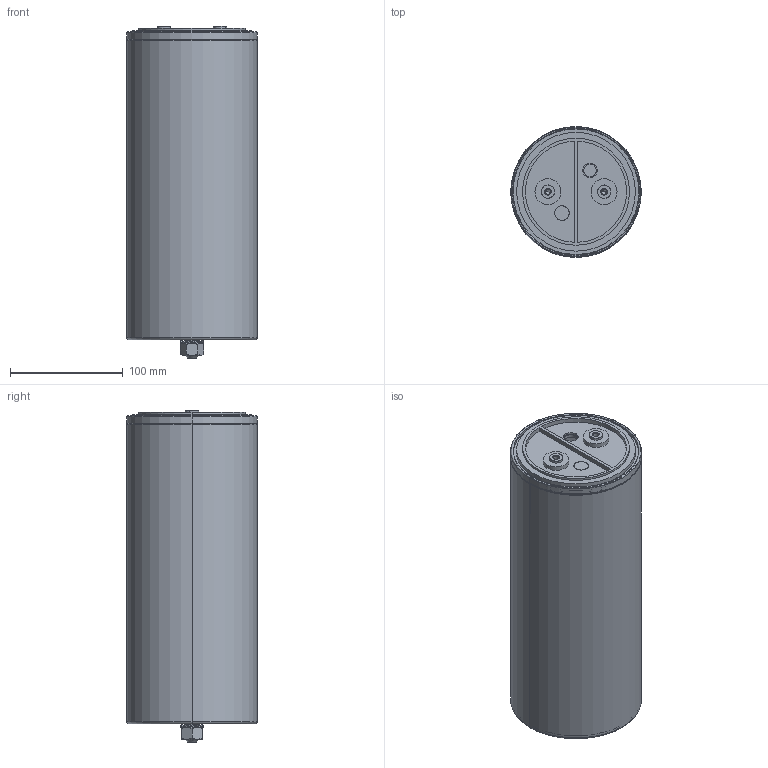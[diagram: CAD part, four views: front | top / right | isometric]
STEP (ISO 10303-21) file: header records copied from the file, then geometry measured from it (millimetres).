
FILE_DESCRIPTION (( 'STEP AP203' ), '1' );
FILE_NAME ('B25620Bx_116x273_279.STEP', '2021-07-01T05:43:33', ( '' ), ( '' ), 'SwSTEP 2.0', 'SolidWorks 2017', '' );
FILE_SCHEMA (( 'CONFIG_CONTROL_DESIGN' ));
Length unit declared in the file: millimetre
Products named in the file (1): B25620Bx_116x273_279
Bounding box: 116 x 116 x 295 mm (x, y, z)
Volume: 149272 mm3; surface area: 250465.9 mm2
Topology: 2 solids, 14 shells, 272 faces, 600 edges, 380 vertices
Faces by surface type: plane 110, cylinder 78, bspline 46, cone 20, torus 18
Entity records: 8493 total; most frequent: CARTESIAN_POINT 2593, ORIENTED_EDGE 1192, DIRECTION 1160, EDGE_CURVE 596, AXIS2_PLACEMENT_3D 433, VERTEX_POINT 380, EDGE_LOOP 302, VECTOR 294
